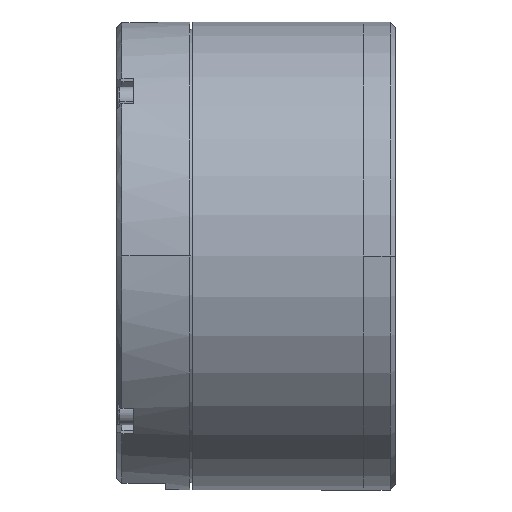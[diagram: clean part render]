
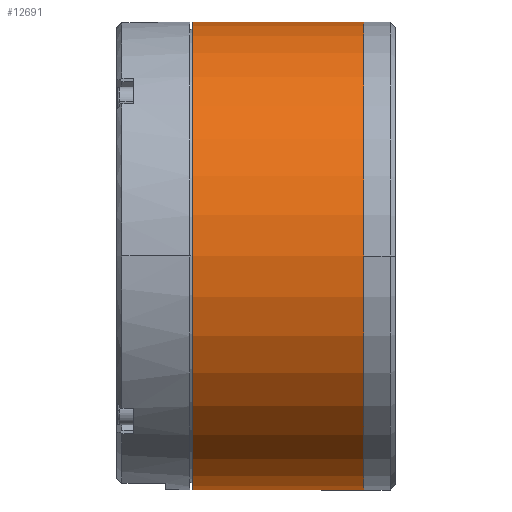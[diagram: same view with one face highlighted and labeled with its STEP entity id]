
A CAD part, front view. The second image highlights one B-rep face of the part: STEP entity #12691.
In plain terms, the highlighted cylindrical face has radius 44.5 mm (diameter 89 mm), a partial arc.
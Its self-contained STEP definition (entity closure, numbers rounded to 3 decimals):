
#37 = CARTESIAN_POINT ( 'NONE',  ( -6., 0., -44.5 ) ) ;
#60 = CIRCLE ( 'NONE', #10346, 44.5 ) ;
#225 = VECTOR ( 'NONE', #6016, 1000. ) ;
#318 = ORIENTED_EDGE ( 'NONE', *, *, #9630, .T. ) ;
#1434 = EDGE_CURVE ( 'NONE', #14575, #13970, #5867, .T. ) ;
#1718 = CARTESIAN_POINT ( 'NONE',  ( -6., 0., -44.5 ) ) ;
#1773 = CARTESIAN_POINT ( 'NONE',  ( -6., 0., 44.5 ) ) ;
#2743 = DIRECTION ( 'NONE',  ( 0., 0., 1. ) ) ;
#4661 = FACE_OUTER_BOUND ( 'NONE', #5155, .T. ) ;
#5095 = EDGE_CURVE ( 'NONE', #11441, #11158, #9101, .T. ) ;
#5155 = EDGE_LOOP ( 'NONE', ( #9861, #318, #11274, #6227 ) ) ;
#5716 = DIRECTION ( 'NONE',  ( -1., 0., 0. ) ) ;
#5867 = LINE ( 'NONE', #8335, #225 ) ;
#6016 = DIRECTION ( 'NONE',  ( -1., 0., 0. ) ) ;
#6227 = ORIENTED_EDGE ( 'NONE', *, *, #7758, .T. ) ;
#6455 = CIRCLE ( 'NONE', #11480, 44.5 ) ;
#6920 = CARTESIAN_POINT ( 'NONE',  ( -38.5, 0., 44.5 ) ) ;
#7116 = DIRECTION ( 'NONE',  ( -1., 0., 0. ) ) ;
#7164 = CARTESIAN_POINT ( 'NONE',  ( -38.5, 0., 0. ) ) ;
#7758 = EDGE_CURVE ( 'NONE', #13970, #11158, #6455, .T. ) ;
#7818 = DIRECTION ( 'NONE',  ( -1., 0., 0. ) ) ;
#8114 = VECTOR ( 'NONE', #7818, 1000. ) ;
#8181 = CARTESIAN_POINT ( 'NONE',  ( -6., 0., 0. ) ) ;
#8335 = CARTESIAN_POINT ( 'NONE',  ( -6., 0., 44.5 ) ) ;
#9101 = LINE ( 'NONE', #37, #8114 ) ;
#9285 = CARTESIAN_POINT ( 'NONE',  ( -38.5, 0., -44.5 ) ) ;
#9294 = CARTESIAN_POINT ( 'NONE',  ( -6., 0., 0. ) ) ;
#9300 = DIRECTION ( 'NONE',  ( 0., 0., 1. ) ) ;
#9365 = DIRECTION ( 'NONE',  ( 0., 0., 1. ) ) ;
#9630 = EDGE_CURVE ( 'NONE', #11441, #14575, #60, .T. ) ;
#9861 = ORIENTED_EDGE ( 'NONE', *, *, #5095, .F. ) ;
#10346 = AXIS2_PLACEMENT_3D ( 'NONE', #8181, #5716, #9300 ) ;
#10694 = AXIS2_PLACEMENT_3D ( 'NONE', #9294, #7116, #9365 ) ;
#10753 = DIRECTION ( 'NONE',  ( 1., 0., 0. ) ) ;
#11158 = VERTEX_POINT ( 'NONE', #9285 ) ;
#11274 = ORIENTED_EDGE ( 'NONE', *, *, #1434, .T. ) ;
#11441 = VERTEX_POINT ( 'NONE', #1718 ) ;
#11480 = AXIS2_PLACEMENT_3D ( 'NONE', #7164, #10753, #2743 ) ;
#11543 = CYLINDRICAL_SURFACE ( 'NONE', #10694, 44.5 ) ;
#12691 = ADVANCED_FACE ( 'NONE', ( #4661 ), #11543, .T. ) ;
#13970 = VERTEX_POINT ( 'NONE', #6920 ) ;
#14575 = VERTEX_POINT ( 'NONE', #1773 ) ;
